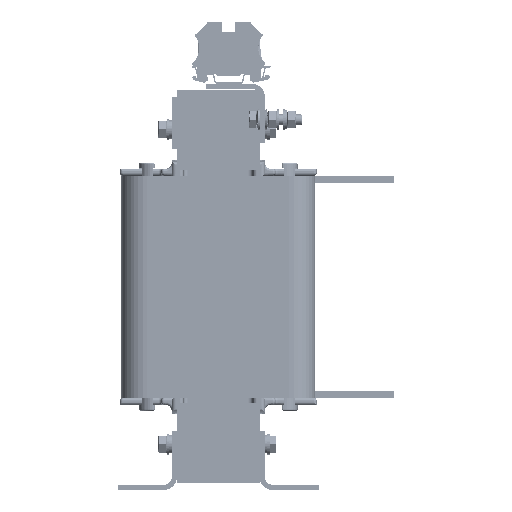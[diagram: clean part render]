
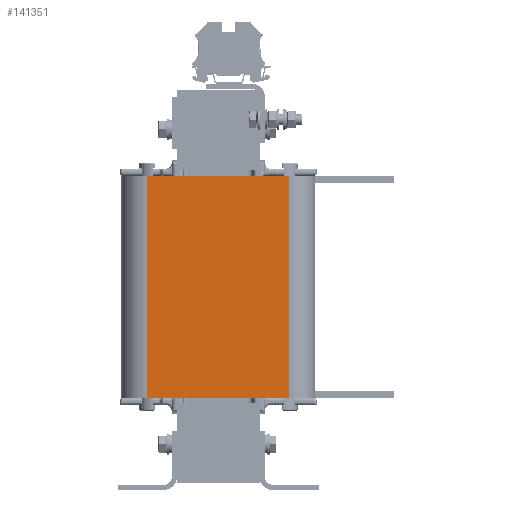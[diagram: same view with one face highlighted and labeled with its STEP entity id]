
A CAD part, left-side view. The second image highlights one B-rep face of the part: STEP entity #141351.
In plain terms, the highlighted planar face has unit normal (-1, 0, 0).
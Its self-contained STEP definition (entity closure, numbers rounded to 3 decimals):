
#138472=CARTESIAN_POINT('',(-191.213,54.05,84.5));
#138473=VERTEX_POINT('',#138472);
#138483=CARTESIAN_POINT('',(-191.213,-54.05,84.5));
#138484=VERTEX_POINT('',#138483);
#138485=CARTESIAN_POINT('',(-191.213,-54.05,84.5));
#138486=DIRECTION('',(0.0,1.0,0.0));
#138487=VECTOR('',#138486,108.1);
#138488=LINE('',#138485,#138487);
#138489=EDGE_CURVE('',#138484,#138473,#138488,.T.);
#139579=CARTESIAN_POINT('',(-191.213,-54.05,-84.5));
#139580=VERTEX_POINT('',#139579);
#139588=CARTESIAN_POINT('',(-191.213,54.05,-84.5));
#139589=VERTEX_POINT('',#139588);
#139590=CARTESIAN_POINT('',(-191.213,54.05,-84.5));
#139591=DIRECTION('',(0.0,-1.0,0.0));
#139592=VECTOR('',#139591,108.1);
#139593=LINE('',#139590,#139592);
#139594=EDGE_CURVE('',#139589,#139580,#139593,.T.);
#141246=CARTESIAN_POINT('',(-191.213,-54.05,-84.5));
#141247=DIRECTION('',(0.0,0.0,1.0));
#141248=VECTOR('',#141247,169.);
#141249=LINE('',#141246,#141248);
#141250=EDGE_CURVE('',#139580,#138484,#141249,.T.);
#141329=CARTESIAN_POINT('',(-191.213,54.05,84.5));
#141330=DIRECTION('',(0.0,0.0,-1.0));
#141331=VECTOR('',#141330,169.);
#141332=LINE('',#141329,#141331);
#141333=EDGE_CURVE('',#138473,#139589,#141332,.T.);
#141340=CARTESIAN_POINT('',(-191.213,54.05,0.0));
#141341=DIRECTION('',(-1.0,0.0,0.0));
#141342=DIRECTION('',(0.0,0.0,-1.0));
#141343=AXIS2_PLACEMENT_3D('',#141340,#141341,#141342);
#141344=PLANE('',#141343);
#141345=ORIENTED_EDGE('',*,*,#139594,.T.);
#141346=ORIENTED_EDGE('',*,*,#141250,.T.);
#141347=ORIENTED_EDGE('',*,*,#138489,.T.);
#141348=ORIENTED_EDGE('',*,*,#141333,.T.);
#141349=EDGE_LOOP('',(#141345,#141346,#141347,#141348));
#141350=FACE_OUTER_BOUND('',#141349,.T.);
#141351=ADVANCED_FACE('',(#141350),#141344,.T.);
